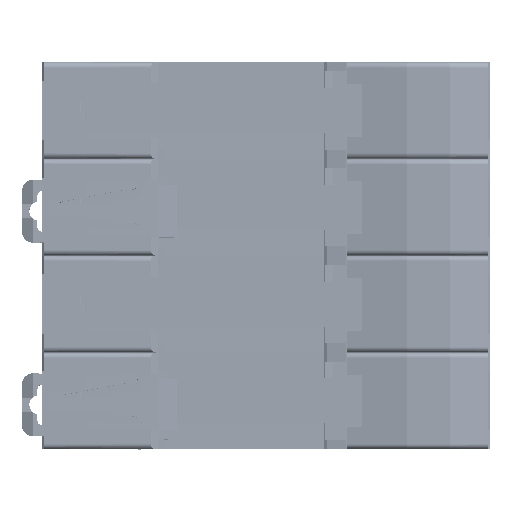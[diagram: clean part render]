
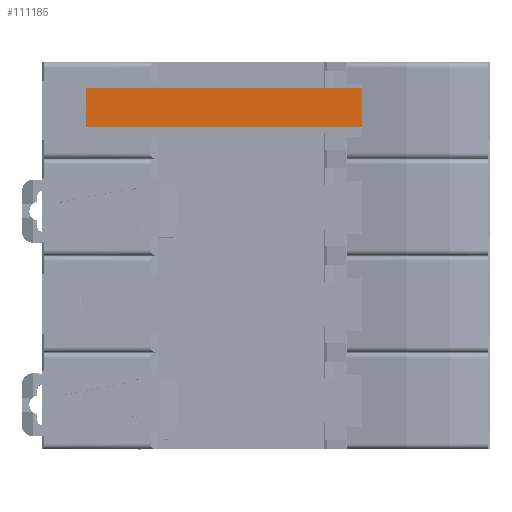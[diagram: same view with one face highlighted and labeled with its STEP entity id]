
A CAD part, front view. The second image highlights one B-rep face of the part: STEP entity #111185.
In plain terms, the highlighted planar face has unit normal (0, -1, 0).
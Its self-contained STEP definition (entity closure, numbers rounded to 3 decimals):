
#337 = ORIENTED_EDGE ( 'NONE', *, *, #32005, .F. ) ;
#3197 = CARTESIAN_POINT ( 'NONE',  ( -54.111, 3.207, 1.315 ) ) ;
#4571 = DIRECTION ( 'NONE',  ( 0.009, 0., -1. ) ) ;
#5153 = CARTESIAN_POINT ( 'NONE',  ( -51.258, 3.207, 1.315 ) ) ;
#5302 = DIRECTION ( 'NONE',  ( 0., 0., 1. ) ) ;
#5620 = VERTEX_POINT ( 'NONE', #95947 ) ;
#5968 = ORIENTED_EDGE ( 'NONE', *, *, #35629, .T. ) ;
#6100 = CARTESIAN_POINT ( 'NONE',  ( -54.111, 3.207, -20.282 ) ) ;
#17924 = DIRECTION ( 'NONE',  ( -1., 0., 0. ) ) ;
#20711 = VERTEX_POINT ( 'NONE', #3197 ) ;
#22917 = EDGE_LOOP ( 'NONE', ( #25956, #118639, #337, #5968, #31035, #56937 ) ) ;
#24057 = EDGE_CURVE ( 'NONE', #27967, #62280, #84293, .T. ) ;
#25956 = ORIENTED_EDGE ( 'NONE', *, *, #24057, .F. ) ;
#27967 = VERTEX_POINT ( 'NONE', #43966 ) ;
#28938 = VERTEX_POINT ( 'NONE', #116949 ) ;
#31035 = ORIENTED_EDGE ( 'NONE', *, *, #69451, .F. ) ;
#32005 = EDGE_CURVE ( 'NONE', #20711, #5620, #92461, .T. ) ;
#33987 = VECTOR ( 'NONE', #17924, 1000. ) ;
#34936 = LINE ( 'NONE', #116605, #106239 ) ;
#35629 = EDGE_CURVE ( 'NONE', #20711, #56992, #34936, .T. ) ;
#36098 = CARTESIAN_POINT ( 'NONE',  ( -135.966, 3.207, -20.282 ) ) ;
#38102 = LINE ( 'NONE', #38960, #59868 ) ;
#38960 = CARTESIAN_POINT ( 'NONE',  ( -135.966, 3.207, 8.4 ) ) ;
#41112 = CARTESIAN_POINT ( 'NONE',  ( -3.938, 3.207, 8.4 ) ) ;
#43966 = CARTESIAN_POINT ( 'NONE',  ( -3.938, 3.207, 8.4 ) ) ;
#47642 = VECTOR ( 'NONE', #117020, 1000. ) ;
#48248 = FACE_OUTER_BOUND ( 'NONE', #22917, .T. ) ;
#56937 = ORIENTED_EDGE ( 'NONE', *, *, #107899, .T. ) ;
#56992 = VERTEX_POINT ( 'NONE', #5153 ) ;
#59675 = CARTESIAN_POINT ( 'NONE',  ( -36.661, 3.207, 1.315 ) ) ;
#59868 = VECTOR ( 'NONE', #104068, 1000. ) ;
#62280 = VERTEX_POINT ( 'NONE', #113501 ) ;
#63575 = LINE ( 'NONE', #59675, #47642 ) ;
#64943 = DIRECTION ( 'NONE',  ( 0., 0., 1. ) ) ;
#69451 = EDGE_CURVE ( 'NONE', #28938, #56992, #112563, .T. ) ;
#69755 = DIRECTION ( 'NONE',  ( 1., 0., 0. ) ) ;
#73059 = DIRECTION ( 'NONE',  ( 0., 1., 0. ) ) ;
#73454 = PLANE ( 'NONE',  #117492 ) ;
#81352 = VECTOR ( 'NONE', #4571, 1000. ) ;
#84293 = LINE ( 'NONE', #41112, #81352 ) ;
#90463 = EDGE_CURVE ( 'NONE', #5620, #27967, #38102, .T. ) ;
#90711 = CARTESIAN_POINT ( 'NONE',  ( -135.966, 3.207, 1.315 ) ) ;
#92461 = LINE ( 'NONE', #6100, #99692 ) ;
#95947 = CARTESIAN_POINT ( 'NONE',  ( -54.111, 3.207, 8.4 ) ) ;
#99692 = VECTOR ( 'NONE', #5302, 1000. ) ;
#104068 = DIRECTION ( 'NONE',  ( 1., 0., 0. ) ) ;
#106239 = VECTOR ( 'NONE', #69755, 1000. ) ;
#107899 = EDGE_CURVE ( 'NONE', #28938, #62280, #63575, .T. ) ;
#111185 = ADVANCED_FACE ( 'NONE', ( #48248 ), #73454, .F. ) ;
#112563 = LINE ( 'NONE', #90711, #33987 ) ;
#113501 = CARTESIAN_POINT ( 'NONE',  ( -3.876, 3.207, 1.315 ) ) ;
#116605 = CARTESIAN_POINT ( 'NONE',  ( -36.661, 3.207, 1.315 ) ) ;
#116949 = CARTESIAN_POINT ( 'NONE',  ( -47.196, 3.207, 1.315 ) ) ;
#117020 = DIRECTION ( 'NONE',  ( 1., 0., 0. ) ) ;
#117492 = AXIS2_PLACEMENT_3D ( 'NONE', #36098, #73059, #64943 ) ;
#118639 = ORIENTED_EDGE ( 'NONE', *, *, #90463, .F. ) ;
